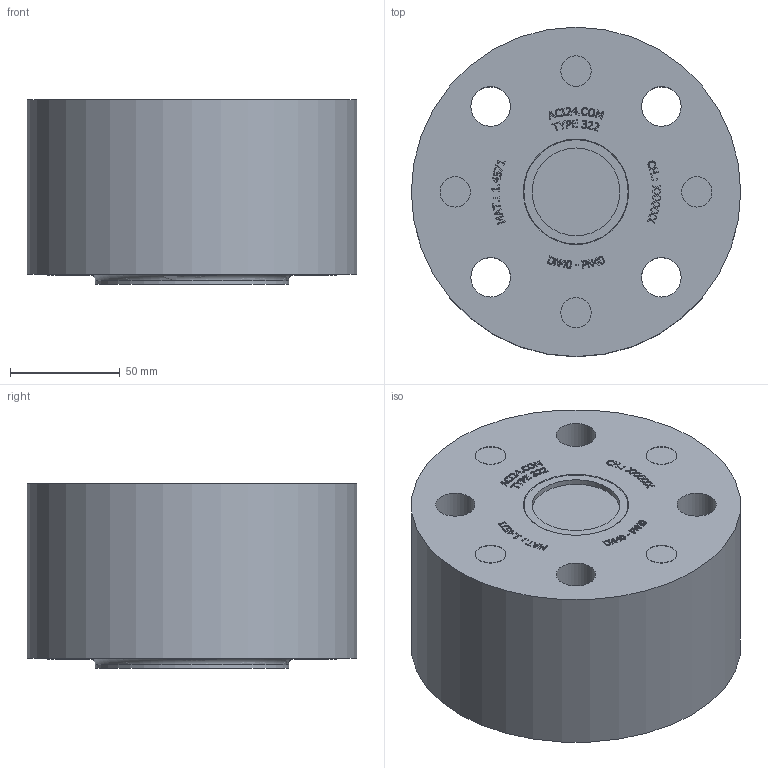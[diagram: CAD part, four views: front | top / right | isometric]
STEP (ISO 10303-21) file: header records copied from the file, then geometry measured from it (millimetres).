
FILE_DESCRIPTION(/* description */ ('ACI TYPE 322 DN 40 PN40'),/* implementation_level */ '2;1');
FILE_NAME(/* name */ 'W:\Konstruktion_ACI\322\ACI-322-40-40.stp',/* time_stamp */ '2020-04-21T10:42:24+02:00',/* author */ ('Götz'),/* organization */ ('ACI Industriearmaturen GmbH info@aci24.com www.aci24.com'),/* preprocessor_version */ 'ST-DEVELOPER v16.1',/* originating_system */ 'Autodesk Inventor 2016',/* authorisation */ 'ACI Industriearmaturen GmbH info@aci24.com www.aci24.com');
FILE_SCHEMA (('CONFIG_CONTROL_DESIGN'));
Length unit declared in the file: centimetre
Products named in the file (1): ACI-322-40-40
Bounding box: 150 x 150 x 84 mm (x, y, z)
Volume: 1345064.7 mm3; surface area: 90623 mm2
Topology: 1 solids, 1 shells, 688 faces, 1864 edges, 1250 vertices
Faces by surface type: plane 489, bspline 181, cylinder 12, torus 5, cone 1
Full cylindrical faces by diameter (mm): 13.835 x4, 18 x4, 40 x2, 88 x1, 150 x1
Entity records: 23136 total; most frequent: CARTESIAN_POINT 6355, ORIENTED_EDGE 3676, DIRECTION 2542, EDGE_CURVE 1838, LINE 1418, VECTOR 1418, VERTEX_POINT 1238, EDGE_LOOP 782
